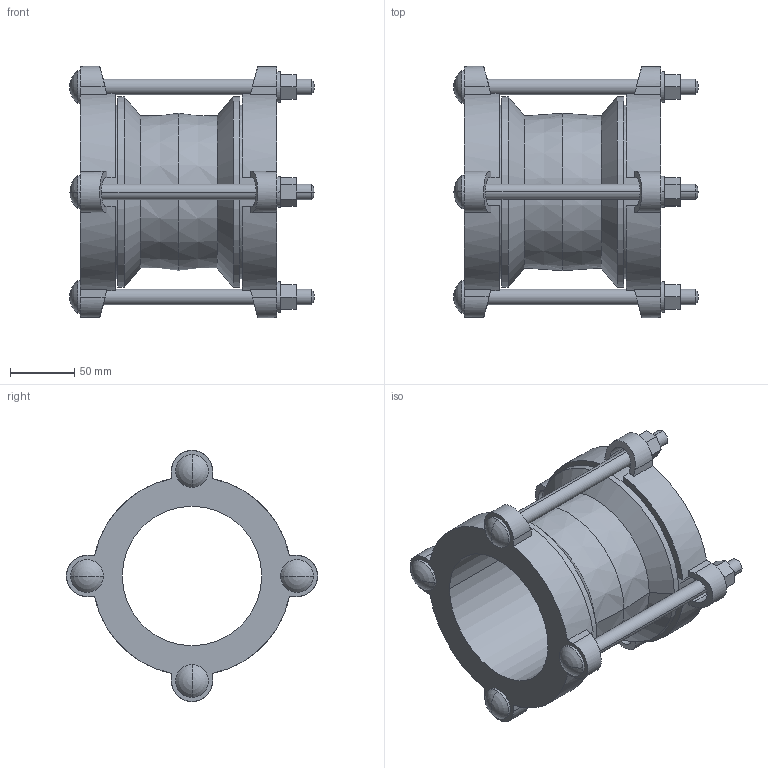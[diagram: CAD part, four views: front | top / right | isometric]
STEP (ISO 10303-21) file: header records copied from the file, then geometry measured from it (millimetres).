
FILE_DESCRIPTION((''),'2;1');
FILE_NAME('BIM__12393_3','2018-08-31T',('MReader'),(''),'CREO PARAMETRIC BY PTC INC, 2016130','CREO PARAMETRIC BY PTC INC, 2016130','');
FILE_SCHEMA(('CONFIG_CONTROL_DESIGN'));
Length unit declared in the file: millimetre
Products named in the file (1): BIM__12393_3
Bounding box: 190.33 x 195.5 x 195.5 mm (x, y, z)
Volume: 982807.5 mm3; surface area: 209127.7 mm2
Topology: 1 solids, 1 shells, 198 faces, 516 edges, 322 vertices
Faces by surface type: plane 108, cylinder 66, sphere 16, cone 8
Entity records: 6160 total; most frequent: CARTESIAN_POINT 1212, DIRECTION 1050, ORIENTED_EDGE 1000, EDGE_CURVE 500, AXIS2_PLACEMENT_3D 368, VERTEX_POINT 322, VECTOR 314, LINE 314
